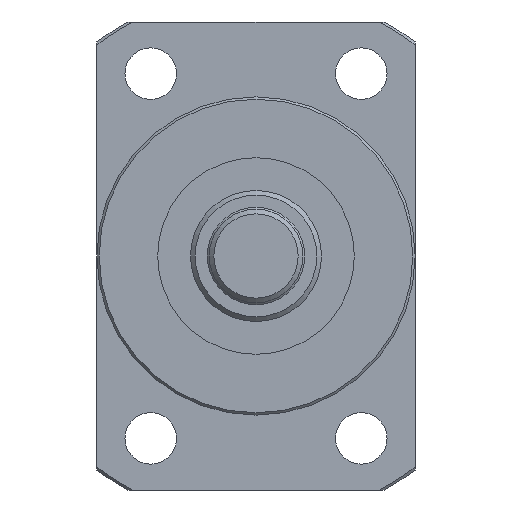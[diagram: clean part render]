
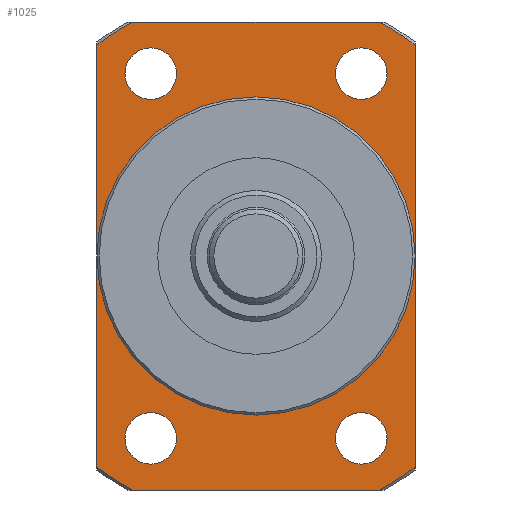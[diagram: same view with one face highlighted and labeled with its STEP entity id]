
A CAD part, left-side view. The second image highlights one B-rep face of the part: STEP entity #1025.
In plain terms, the highlighted planar face has unit normal (-1, 0, 0).
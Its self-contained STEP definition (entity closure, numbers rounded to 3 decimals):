
#144=CIRCLE('',#1173,28.25);
#145=CIRCLE('',#1175,28.25);
#146=CIRCLE('',#1177,28.25);
#147=CIRCLE('',#1179,28.25);
#148=CIRCLE('',#1181,16.7);
#149=CIRCLE('',#1182,2.75);
#150=CIRCLE('',#1183,2.75);
#151=CIRCLE('',#1184,2.75);
#152=CIRCLE('',#1185,2.75);
#315=ORIENTED_EDGE('',*,*,#507,.T.);
#316=ORIENTED_EDGE('',*,*,#508,.T.);
#317=ORIENTED_EDGE('',*,*,#509,.T.);
#318=ORIENTED_EDGE('',*,*,#510,.T.);
#319=ORIENTED_EDGE('',*,*,#511,.T.);
#320=ORIENTED_EDGE('',*,*,#496,.F.);
#321=ORIENTED_EDGE('',*,*,#512,.T.);
#322=ORIENTED_EDGE('',*,*,#498,.F.);
#323=ORIENTED_EDGE('',*,*,#513,.T.);
#324=ORIENTED_EDGE('',*,*,#502,.F.);
#325=ORIENTED_EDGE('',*,*,#514,.T.);
#326=ORIENTED_EDGE('',*,*,#504,.F.);
#327=ORIENTED_EDGE('',*,*,#515,.T.);
#496=EDGE_CURVE('',#602,#603,#144,.T.);
#498=EDGE_CURVE('',#604,#605,#145,.T.);
#502=EDGE_CURVE('',#606,#607,#146,.T.);
#504=EDGE_CURVE('',#608,#609,#147,.T.);
#507=EDGE_CURVE('',#610,#610,#148,.T.);
#508=EDGE_CURVE('',#611,#611,#149,.T.);
#509=EDGE_CURVE('',#612,#612,#150,.T.);
#510=EDGE_CURVE('',#613,#613,#151,.T.);
#511=EDGE_CURVE('',#614,#614,#152,.T.);
#512=EDGE_CURVE('',#602,#605,#656,.T.);
#513=EDGE_CURVE('',#604,#607,#657,.T.);
#514=EDGE_CURVE('',#606,#609,#658,.T.);
#515=EDGE_CURVE('',#608,#603,#659,.T.);
#602=VERTEX_POINT('',#1794);
#603=VERTEX_POINT('',#1796);
#604=VERTEX_POINT('',#1803);
#605=VERTEX_POINT('',#1804);
#606=VERTEX_POINT('',#1818);
#607=VERTEX_POINT('',#1820);
#608=VERTEX_POINT('',#1827);
#609=VERTEX_POINT('',#1828);
#610=VERTEX_POINT('',#1839);
#611=VERTEX_POINT('',#1841);
#612=VERTEX_POINT('',#1843);
#613=VERTEX_POINT('',#1845);
#614=VERTEX_POINT('',#1847);
#656=LINE('',#1848,#682);
#657=LINE('',#1849,#683);
#658=LINE('',#1850,#684);
#659=LINE('',#1851,#685);
#682=VECTOR('',#1469,1000.);
#683=VECTOR('',#1470,1000.);
#684=VECTOR('',#1471,1000.);
#685=VECTOR('',#1472,1000.);
#758=EDGE_LOOP('',(#315));
#759=EDGE_LOOP('',(#316));
#760=EDGE_LOOP('',(#317));
#761=EDGE_LOOP('',(#318));
#762=EDGE_LOOP('',(#319));
#763=EDGE_LOOP('',(#320,#321,#322,#323,#324,#325,#326,#327));
#892=FACE_BOUND('',#758,.T.);
#893=FACE_BOUND('',#759,.T.);
#894=FACE_BOUND('',#760,.T.);
#895=FACE_BOUND('',#761,.T.);
#896=FACE_BOUND('',#762,.T.);
#897=FACE_BOUND('',#763,.T.);
#968=PLANE('',#1180);
#1025=ADVANCED_FACE('',(#892,#893,#894,#895,#896,#897),#968,.T.);
#1173=AXIS2_PLACEMENT_3D('',#1795,#1443,#1444);
#1175=AXIS2_PLACEMENT_3D('',#1802,#1447,#1448);
#1177=AXIS2_PLACEMENT_3D('',#1819,#1451,#1452);
#1179=AXIS2_PLACEMENT_3D('',#1826,#1455,#1456);
#1180=AXIS2_PLACEMENT_3D('',#1837,#1457,#1458);
#1181=AXIS2_PLACEMENT_3D('',#1838,#1459,#1460);
#1182=AXIS2_PLACEMENT_3D('',#1840,#1461,#1462);
#1183=AXIS2_PLACEMENT_3D('',#1842,#1463,#1464);
#1184=AXIS2_PLACEMENT_3D('',#1844,#1465,#1466);
#1185=AXIS2_PLACEMENT_3D('',#1846,#1467,#1468);
#1443=DIRECTION('',(1.,0.,0.));
#1444=DIRECTION('',(0.,0.,-1.));
#1447=DIRECTION('',(1.,0.,0.));
#1448=DIRECTION('',(0.,0.,-1.));
#1451=DIRECTION('',(1.,0.,0.));
#1452=DIRECTION('',(0.,0.,-1.));
#1455=DIRECTION('',(1.,0.,0.));
#1456=DIRECTION('',(0.,0.,-1.));
#1457=DIRECTION('',(-1.,0.,0.));
#1458=DIRECTION('',(0.,0.,1.));
#1459=DIRECTION('',(1.,0.,0.));
#1460=DIRECTION('',(0.,0.,-1.));
#1461=DIRECTION('',(1.,0.,0.));
#1462=DIRECTION('',(0.,0.,-1.));
#1463=DIRECTION('',(1.,0.,0.));
#1464=DIRECTION('',(0.,0.,-1.));
#1465=DIRECTION('',(1.,0.,0.));
#1466=DIRECTION('',(0.,0.,-1.));
#1467=DIRECTION('',(1.,0.,0.));
#1468=DIRECTION('',(0.,0.,-1.));
#1469=DIRECTION('',(0.,1.,0.));
#1470=DIRECTION('',(0.,0.,-1.));
#1471=DIRECTION('',(0.,-1.,0.));
#1472=DIRECTION('',(0.,0.,1.));
#1794=CARTESIAN_POINT('',(35.,-13.155,25.));
#1795=CARTESIAN_POINT('',(35.,0.,0.));
#1796=CARTESIAN_POINT('',(35.,-17.,22.562));
#1802=CARTESIAN_POINT('',(35.,0.,0.));
#1803=CARTESIAN_POINT('',(35.,17.,22.562));
#1804=CARTESIAN_POINT('',(35.,13.155,25.));
#1818=CARTESIAN_POINT('',(35.,13.155,-25.));
#1819=CARTESIAN_POINT('',(35.,0.,0.));
#1820=CARTESIAN_POINT('',(35.,17.,-22.562));
#1826=CARTESIAN_POINT('',(35.,0.,0.));
#1827=CARTESIAN_POINT('',(35.,-17.,-22.562));
#1828=CARTESIAN_POINT('',(35.,-13.155,-25.));
#1837=CARTESIAN_POINT('',(35.,28.25,0.));
#1838=CARTESIAN_POINT('',(35.,0.,0.));
#1839=CARTESIAN_POINT('',(35.,0.,-16.7));
#1840=CARTESIAN_POINT('',(35.,11.25,19.486));
#1841=CARTESIAN_POINT('',(35.,11.25,16.736));
#1842=CARTESIAN_POINT('',(35.,-11.25,19.486));
#1843=CARTESIAN_POINT('',(35.,-11.25,16.736));
#1844=CARTESIAN_POINT('',(35.,-11.25,-19.486));
#1845=CARTESIAN_POINT('',(35.,-11.25,-22.236));
#1846=CARTESIAN_POINT('',(35.,11.25,-19.486));
#1847=CARTESIAN_POINT('',(35.,11.25,-22.236));
#1848=CARTESIAN_POINT('',(35.,28.25,25.));
#1849=CARTESIAN_POINT('',(35.,17.,0.));
#1850=CARTESIAN_POINT('',(35.,28.25,-25.));
#1851=CARTESIAN_POINT('',(35.,-17.,0.));
